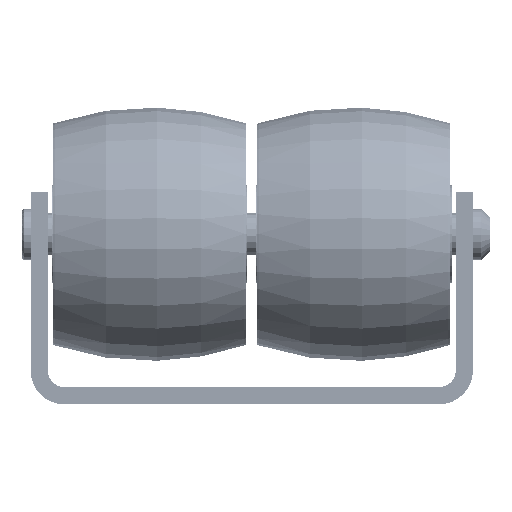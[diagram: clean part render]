
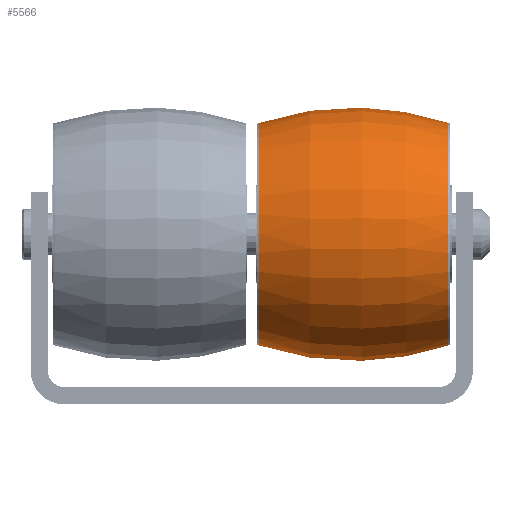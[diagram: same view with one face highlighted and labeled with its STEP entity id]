
A CAD part, front view. The second image highlights one B-rep face of the part: STEP entity #5566.
In plain terms, the highlighted toroidal (fillet/blend) face has major radius 20.11 mm and minor radius 35 mm.
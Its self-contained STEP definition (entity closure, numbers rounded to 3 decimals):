
#20=DEGENERATE_TOROIDAL_SURFACE('',#6264,20.11,35.,.F.);
#1315=CIRCLE('',#6261,13.08);
#1316=CIRCLE('',#6263,13.08);
#2412=ORIENTED_EDGE('',*,*,#2974,.F.);
#2413=ORIENTED_EDGE('',*,*,#2975,.F.);
#2974=EDGE_CURVE('',#3451,#3451,#1315,.T.);
#2975=EDGE_CURVE('',#3452,#3452,#1316,.T.);
#3451=VERTEX_POINT('',#9548);
#3452=VERTEX_POINT('',#9551);
#4486=EDGE_LOOP('',(#2412));
#4487=EDGE_LOOP('',(#2413));
#5218=FACE_BOUND('',#4486,.T.);
#5219=FACE_BOUND('',#4487,.T.);
#5566=ADVANCED_FACE('',(#5218,#5219),#20,.F.);
#6261=AXIS2_PLACEMENT_3D('',#9547,#7885,#7886);
#6263=AXIS2_PLACEMENT_3D('',#9550,#7889,#7890);
#6264=AXIS2_PLACEMENT_3D('',#9552,#7891,#7892);
#7885=DIRECTION('',(1.,0.,0.));
#7886=DIRECTION('',(0.,0.,-1.));
#7889=DIRECTION('',(-1.,0.,0.));
#7890=DIRECTION('',(0.,0.,1.));
#7891=DIRECTION('',(1.,0.,0.));
#7892=DIRECTION('',(0.,0.,-1.));
#9547=CARTESIAN_POINT('',(-0.388,0.,0.));
#9548=CARTESIAN_POINT('',(-0.388,0.,-13.08));
#9550=CARTESIAN_POINT('',(-22.612,0.,0.));
#9551=CARTESIAN_POINT('',(-22.612,0.,13.08));
#9552=CARTESIAN_POINT('',(-11.5,0.,0.));
